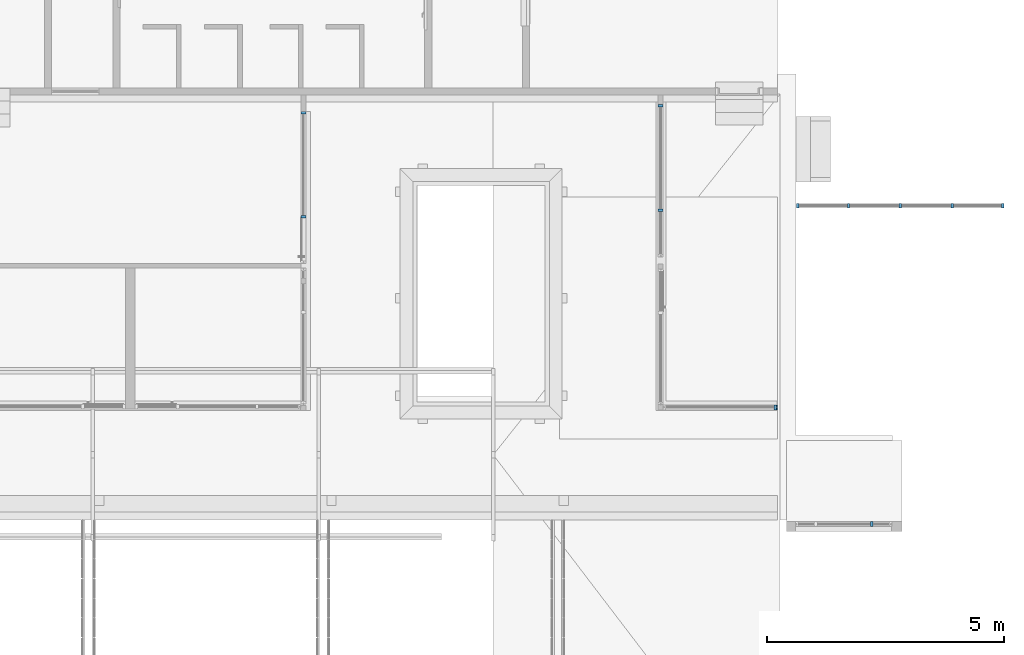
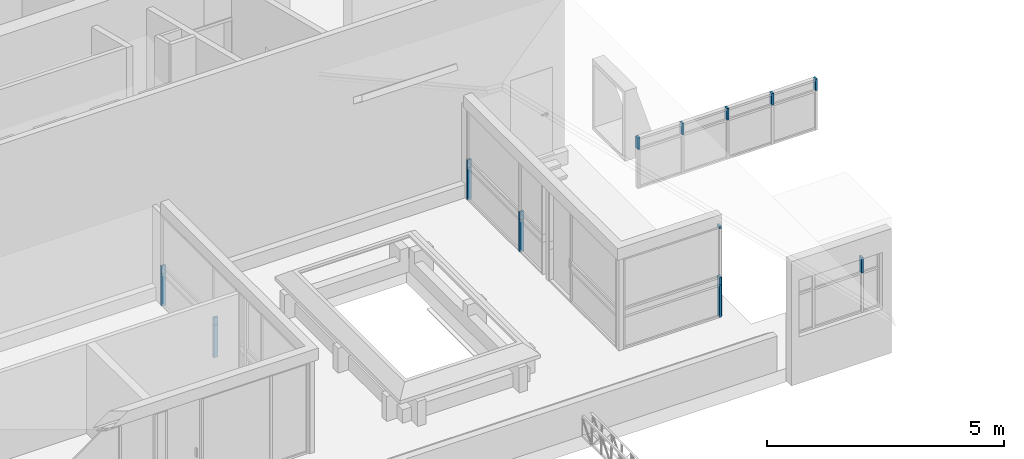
# One storey, part 100 of 153: 19 members, 5 elements without a shape of their own.
"""IFC4 building model written with IfcOpenShell, lengths in metres."""

from ifc_helpers import new_model, entity, si_unit, converted_unit, derived_unit, direction, frame, origin, place, context, subcontext, project, spatial, indexed_curve, outline, extrude, source, transform, mapped, material, type_object, type_shapes, element, aggregate, save


model = new_model("IFC4")

# Units and contexts
model_context = context("Model", 3, precision=1e-05, world=origin(), true_north=direction((6.123031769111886e-17, 1.0)))
body_context = subcontext(model_context, "Body", "Model", "MODEL_VIEW")
ifc_project = project(units=[si_unit("LENGTHUNIT", "METRE"), si_unit("AREAUNIT", "SQUARE_METRE"), si_unit("VOLUMEUNIT", "CUBIC_METRE"), converted_unit("PLANEANGLEUNIT", "DEGREE", entity("IfcRatioMeasure", 0.017453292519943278), si_unit("PLANEANGLEUNIT", "RADIAN"), dimensions=[0, 0, 0, 0, 0, 0, 0]), si_unit("MASSUNIT", "GRAM", prefix="KILO"), derived_unit("MASSDENSITYUNIT", [(si_unit("MASSUNIT", "GRAM", prefix="KILO"), 1), (si_unit("LENGTHUNIT", "METRE"), -3)]), derived_unit("MOMENTOFINERTIAUNIT", [(si_unit("LENGTHUNIT", "METRE"), 4)]), si_unit("TIMEUNIT", "SECOND"), si_unit("FREQUENCYUNIT", "HERTZ"), si_unit("THERMODYNAMICTEMPERATUREUNIT", "DEGREE_CELSIUS"), derived_unit("THERMALTRANSMITTANCEUNIT", [(si_unit("MASSUNIT", "GRAM", prefix="KILO"), 1), (si_unit("THERMODYNAMICTEMPERATUREUNIT", "KELVIN"), -1), (si_unit("TIMEUNIT", "SECOND"), -3)]), derived_unit("VOLUMETRICFLOWRATEUNIT", [(si_unit("LENGTHUNIT", "METRE"), 3), (si_unit("TIMEUNIT", "SECOND"), -1)]), derived_unit("MASSFLOWRATEUNIT", [(si_unit("MASSUNIT", "GRAM", prefix="KILO"), 1), (si_unit("TIMEUNIT", "SECOND"), -1)]), derived_unit("ROTATIONALFREQUENCYUNIT", [(si_unit("TIMEUNIT", "SECOND"), -1)]), si_unit("ELECTRICCURRENTUNIT", "AMPERE"), si_unit("ELECTRICVOLTAGEUNIT", "VOLT"), si_unit("POWERUNIT", "WATT"), si_unit("FORCEUNIT", "NEWTON", prefix="KILO"), si_unit("ILLUMINANCEUNIT", "LUX"), si_unit("LUMINOUSFLUXUNIT", "LUMEN"), si_unit("LUMINOUSINTENSITYUNIT", "CANDELA"), derived_unit("USERDEFINED", [(si_unit("MASSUNIT", "GRAM", prefix="KILO"), -1), (si_unit("LENGTHUNIT", "METRE"), -2), (si_unit("TIMEUNIT", "SECOND"), 3), (si_unit("LUMINOUSFLUXUNIT", "LUMEN"), 1)]), derived_unit("SOUNDPOWERUNIT", [(si_unit("MASSUNIT", "GRAM", prefix="KILO"), 1), (si_unit("LENGTHUNIT", "METRE"), 2), (si_unit("TIMEUNIT", "SECOND"), -3)]), derived_unit("SOUNDPRESSUREUNIT", [(si_unit("MASSUNIT", "GRAM", prefix="KILO"), 1), (si_unit("LENGTHUNIT", "METRE"), -1), (si_unit("TIMEUNIT", "SECOND"), -2)]), derived_unit("LINEARVELOCITYUNIT", [(si_unit("LENGTHUNIT", "METRE"), 1), (si_unit("TIMEUNIT", "SECOND"), -1)]), si_unit("PRESSUREUNIT", "PASCAL"), derived_unit("USERDEFINED", [(si_unit("LENGTHUNIT", "METRE"), -2), (si_unit("MASSUNIT", "GRAM", prefix="KILO"), 1), (si_unit("TIMEUNIT", "SECOND"), -2)]), derived_unit("LINEARFORCEUNIT", [(si_unit("MASSUNIT", "GRAM", prefix="KILO"), 1), (si_unit("LENGTHUNIT", "METRE"), 1), (si_unit("TIMEUNIT", "SECOND"), -2), (si_unit("LENGTHUNIT", "METRE"), -1)]), derived_unit("PLANARFORCEUNIT", [(si_unit("MASSUNIT", "GRAM", prefix="KILO"), 1), (si_unit("LENGTHUNIT", "METRE"), 1), (si_unit("TIMEUNIT", "SECOND"), -2), (si_unit("LENGTHUNIT", "METRE"), -2)])], contexts=[model_context])

# Site, building, storey
site_placement = place(None, origin())
site = spatial("IfcSite", under=ifc_project, at=site_placement, Name="Superficie", CompositionType="ELEMENT")
building_placement = place(site_placement, origin())
building = spatial("IfcBuilding", under=site, at=building_placement, CompositionType="ELEMENT")
storey_placement = place(building_placement, frame((0.0, 0.0, 3.5999999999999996)))
storey = spatial("IfcBuildingStorey", under=building, at=storey_placement, Name="Nivel 1", CompositionType="ELEMENT", Elevation=3.5999999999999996)

# Curtain wall, member
curtain_wall_type = type_object("IfcCurtainWallType", Name="Muro cortina:Muro cortina - simple", PredefinedType="NOTDEFINED")
curtain_wall_1_placement = place(storey_placement, frame((0.0, 0.0, -3.5999999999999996)))
curtain_wall_1 = element("IfcCurtainWall", 1, at=curtain_wall_1_placement, inside=storey, type_object=curtain_wall_type, Name="Muro cortina:Muro cortina - simple", ObjectType="Muro cortina:Muro cortina - simple", PredefinedType="NOTDEFINED")
ifc_material = material(Name="<Unnamed>")
member_type_1 = type_object("IfcMemberType", Name="Montante rectangular:Montante rectangular - 5 x 10 cm", PredefinedType="MULLION", material=ifc_material)
shared_shape_1 = source(origin(), body_context, "Body", "SweptSolid", [
    extrude(outline(indexed_curve([(-0.05, -0.025), (0.05, -0.025), (0.05, 0.025), (-0.05, 0.025), (-0.05, -0.025)], self_intersect=False)), frame((0.0, 0.0, -0.19999999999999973), z_axis=(0.0, 0.0, 1.0), x_axis=(0.0, -1.0, 0.0)), (0.0, 0.0, 1.0), 0.19999999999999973),
])
type_shapes(member_type_1, [shared_shape_1])
member_1_placement = place(curtain_wall_1_placement, frame((20.546799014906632, -0.9636067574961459, 4.43), z_axis=(0.0, 0.0, -1.0), x_axis=(1.0, 0.0, 0.0)))
member_1 = element("IfcMember", 2, at=member_1_placement, type_object=member_type_1, material=ifc_material, Name="Montante rectangular:Montante rectangular - 5 x 10 cm", ObjectType="Montante rectangular:Montante rectangular - 5 x 10 cm", PredefinedType="MULLION", context=body_context, shape_type="MappedRepresentation", body=[
    mapped(shared_shape_1, transform((0.0, 0.0, 0.0), scale=1.0)),
])

curtain_wall_2_placement = place(storey_placement, frame((0.0, 0.0, -3.5999999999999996)))
curtain_wall_2 = element("IfcCurtainWall", 3, at=curtain_wall_2_placement, inside=storey, type_object=curtain_wall_type, Name="Muro cortina:Muro cortina - simple", ObjectType="Muro cortina:Muro cortina - simple", PredefinedType="NOTDEFINED")
member_2_placement = place(curtain_wall_2_placement, frame((18.12679901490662, 3.1952328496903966, 4.43), z_axis=(0.0, 0.0, -1.0), x_axis=(0.0, 1.0, 0.0)))
member_2 = element("IfcMember", 4, at=member_2_placement, type_object=member_type_1, material=ifc_material, Name="Montante rectangular:Montante rectangular - 5 x 10 cm", ObjectType="Montante rectangular:Montante rectangular - 5 x 10 cm", PredefinedType="MULLION", context=body_context, shape_type="MappedRepresentation", body=[
    mapped(shared_shape_1, transform((0.0, 0.0, 0.0), scale=1.0)),
])

curtain_wall_3_placement = place(storey_placement, frame((0.0, 0.0, -3.5999999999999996)))
curtain_wall_3 = element("IfcCurtainWall", 5, at=curtain_wall_3_placement, inside=storey, type_object=curtain_wall_type, Name="Muro cortina:Muro cortina - simple", ObjectType="Muro cortina:Muro cortina - simple", PredefinedType="NOTDEFINED")
member_3_placement = place(curtain_wall_3_placement, frame((10.596799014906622, 3.057083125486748, 4.43), z_axis=(0.0, 0.0, -1.0), x_axis=(0.0, 1.0, 0.0)))
member_3 = element("IfcMember", 6, at=member_3_placement, type_object=member_type_1, material=ifc_material, Name="Montante rectangular:Montante rectangular - 5 x 10 cm", ObjectType="Montante rectangular:Montante rectangular - 5 x 10 cm", PredefinedType="MULLION", context=body_context, shape_type="MappedRepresentation", body=[
    mapped(shared_shape_1, transform((0.0, 0.0, 0.0), scale=1.0)),
])

# Member
member_type_2 = type_object("IfcMemberType", Name="Montante rectangular:Montante rectangular - 5 x 10 cm", PredefinedType="MULLION", material=ifc_material)
shared_shape_2 = source(origin(), body_context, "Body", "SweptSolid", [
    extrude(outline(indexed_curve([(-0.05, -0.025), (0.05, -0.025), (0.05, 0.025), (-0.05, 0.025), (-0.05, -0.025)], self_intersect=False)), frame((0.0, 0.0, -0.8350000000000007), z_axis=(0.0, 0.0, 1.0), x_axis=(0.0, -1.0, 0.0)), (0.0, 0.0, 1.0), 0.8350000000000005),
])
type_shapes(member_type_2, [shared_shape_2])
member_4_placement = place(curtain_wall_1_placement, frame((20.546799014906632, -0.9636067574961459, 3.5949999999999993), z_axis=(0.0, 0.0, -1.0), x_axis=(1.0, 0.0, 0.0)))
member_4 = element("IfcMember", 7, at=member_4_placement, type_object=member_type_2, material=ifc_material, Name="Montante rectangular:Montante rectangular - 5 x 10 cm", ObjectType="Montante rectangular:Montante rectangular - 5 x 10 cm", PredefinedType="MULLION", context=body_context, shape_type="MappedRepresentation", body=[
    mapped(shared_shape_2, transform((0.0, 0.0, 0.0), scale=1.0)),
])

member_5_placement = place(curtain_wall_2_placement, frame((18.12679901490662, 3.1952328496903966, 3.5949999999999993), z_axis=(0.0, 0.0, -1.0), x_axis=(0.0, 1.0, 0.0)))
member_5 = element("IfcMember", 8, at=member_5_placement, type_object=member_type_2, material=ifc_material, Name="Montante rectangular:Montante rectangular - 5 x 10 cm", ObjectType="Montante rectangular:Montante rectangular - 5 x 10 cm", PredefinedType="MULLION", context=body_context, shape_type="MappedRepresentation", body=[
    mapped(shared_shape_2, transform((0.0, 0.0, 0.0), scale=1.0)),
])

member_6_placement = place(curtain_wall_3_placement, frame((10.596799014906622, 3.057083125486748, 3.5949999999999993), z_axis=(0.0, 0.0, -1.0), x_axis=(0.0, 1.0, 0.0)))
member_6 = element("IfcMember", 9, at=member_6_placement, type_object=member_type_2, material=ifc_material, Name="Montante rectangular:Montante rectangular - 5 x 10 cm", ObjectType="Montante rectangular:Montante rectangular - 5 x 10 cm", PredefinedType="MULLION", context=body_context, shape_type="MappedRepresentation", body=[
    mapped(shared_shape_2, transform((0.0, 0.0, 0.0), scale=1.0)),
])

member_type_3 = type_object("IfcMemberType", Name="Montante rectangular:Montante rectangular - 5 x 10 cm", PredefinedType="MULLION", material=ifc_material)
shared_shape_3 = source(origin(), body_context, "Body", "SweptSolid", [
    extrude(outline(indexed_curve([(-0.05, -0.025), (0.05, -0.025), (0.05, 0.025), (-0.05, 0.025), (-0.05, -0.025)], self_intersect=False)), frame((-0.025, 0.0, -0.2), z_axis=(0.0, 0.0, 1.0), x_axis=(0.0, -1.0, 0.0)), (0.0, 0.0, 1.0), 0.2),
])
type_shapes(member_type_3, [shared_shape_3])
member_7_placement = place(curtain_wall_2_placement, frame((18.12679901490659, 5.426393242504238, 4.43), z_axis=(0.0, 0.0, -1.0), x_axis=(0.0, 1.0, 0.0)))
member_7 = element("IfcMember", 10, at=member_7_placement, type_object=member_type_3, material=ifc_material, Name="Montante rectangular:Montante rectangular - 5 x 10 cm", ObjectType="Montante rectangular:Montante rectangular - 5 x 10 cm", PredefinedType="MULLION", context=body_context, shape_type="MappedRepresentation", body=[
    mapped(shared_shape_3, transform((0.0, 0.0, 0.0), scale=1.0)),
])

member_8_placement = place(curtain_wall_3_placement, frame((10.596799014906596, 5.276393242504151, 4.43), z_axis=(0.0, 0.0, -1.0), x_axis=(0.0, 1.0, 0.0)))
member_8 = element("IfcMember", 11, at=member_8_placement, type_object=member_type_3, material=ifc_material, Name="Montante rectangular:Montante rectangular - 5 x 10 cm", ObjectType="Montante rectangular:Montante rectangular - 5 x 10 cm", PredefinedType="MULLION", context=body_context, shape_type="MappedRepresentation", body=[
    mapped(shared_shape_3, transform((0.0, 0.0, 0.0), scale=1.0)),
])

member_type_4 = type_object("IfcMemberType", Name="Montante rectangular:Montante rectangular - 5 x 10 cm", PredefinedType="MULLION", material=ifc_material)
shared_shape_4 = source(origin(), body_context, "Body", "SweptSolid", [
    extrude(outline(indexed_curve([(-0.05, -0.025), (0.05, -0.025), (0.05, 0.025), (-0.05, 0.025), (-0.05, -0.025)], self_intersect=False)), frame((-0.025, 0.0, -0.8349999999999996), z_axis=(0.0, 0.0, 1.0), x_axis=(0.0, -1.0, 0.0)), (0.0, 0.0, 1.0), 0.8349999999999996),
])
type_shapes(member_type_4, [shared_shape_4])
member_9_placement = place(curtain_wall_2_placement, frame((18.12679901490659, 5.426393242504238, 3.5949999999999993), z_axis=(0.0, 0.0, -1.0), x_axis=(0.0, 1.0, 0.0)))
member_9 = element("IfcMember", 12, at=member_9_placement, type_object=member_type_4, material=ifc_material, Name="Montante rectangular:Montante rectangular - 5 x 10 cm", ObjectType="Montante rectangular:Montante rectangular - 5 x 10 cm", PredefinedType="MULLION", context=body_context, shape_type="MappedRepresentation", body=[
    mapped(shared_shape_4, transform((0.0, 0.0, 0.0), scale=1.0)),
])

aggregate(curtain_wall_2, [member_2, member_5, member_7, member_9])

member_10_placement = place(curtain_wall_3_placement, frame((10.596799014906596, 5.276393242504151, 3.5949999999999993), z_axis=(0.0, 0.0, -1.0), x_axis=(0.0, 1.0, 0.0)))
member_10 = element("IfcMember", 13, at=member_10_placement, type_object=member_type_4, material=ifc_material, Name="Montante rectangular:Montante rectangular - 5 x 10 cm", ObjectType="Montante rectangular:Montante rectangular - 5 x 10 cm", PredefinedType="MULLION", context=body_context, shape_type="MappedRepresentation", body=[
    mapped(shared_shape_4, transform((0.0, 0.0, 0.0), scale=1.0)),
])

aggregate(curtain_wall_3, [member_3, member_6, member_8, member_10])

# Curtain wall, member
curtain_wall_4_placement = place(storey_placement, frame((0.0, 0.0, -3.5999999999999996)))
curtain_wall_4 = element("IfcCurtainWall", 14, at=curtain_wall_4_placement, inside=storey, type_object=curtain_wall_type, Name="Muro cortina:Muro cortina - simple", ObjectType="Muro cortina:Muro cortina - simple", PredefinedType="NOTDEFINED")
member_type_5 = type_object("IfcMemberType", Name="Montante rectangular:Montante rectangular - 5 x 10 cm", PredefinedType="MULLION", material=ifc_material)
shared_shape_5 = source(origin(), body_context, "Body", "SweptSolid", [
    extrude(outline(indexed_curve([(-0.05, -0.025), (0.05, -0.025), (0.05, 0.025), (-0.05, 0.025), (-0.05, -0.025)], self_intersect=False)), frame((0.0, 0.0, -0.4), z_axis=(0.0, 0.0, 1.0), x_axis=(0.0, -1.0, 0.0)), (0.0, 0.0, 1.0), 0.4),
])
type_shapes(member_type_5, [shared_shape_5])
member_11_placement = place(curtain_wall_4_placement, frame((22.581001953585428, -3.424170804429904, 5.516385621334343), z_axis=(0.0, 0.0, -1.0), x_axis=(-1.0, 0.0, 0.0)))
member_11 = element("IfcMember", 15, at=member_11_placement, type_object=member_type_5, material=ifc_material, Name="Montante rectangular:Montante rectangular - 5 x 10 cm", ObjectType="Montante rectangular:Montante rectangular - 5 x 10 cm", PredefinedType="MULLION", context=body_context, shape_type="MappedRepresentation", body=[
    mapped(shared_shape_5, transform((0.0, 0.0, 0.0), scale=1.0)),
])
aggregate(curtain_wall_4, [member_11])

# Member
member_type_6 = type_object("IfcMemberType", Name="Montante rectangular:Montante rectangular - 5 x 10 cm", PredefinedType="MULLION", material=ifc_material)
shared_shape_6 = source(origin(), body_context, "Body", "SweptSolid", [
    extrude(outline(indexed_curve([(-0.05, -0.025), (0.05, -0.025), (0.05, 0.025), (-0.05, 0.025), (-0.05, -0.025)], self_intersect=False)), frame((-0.025, 0.0, -0.2), z_axis=(0.0, 0.0, 1.0), x_axis=(0.0, -1.0, 0.0)), (0.0, 0.0, 1.0), 0.2),
])
type_shapes(member_type_6, [shared_shape_6])
member_12_placement = place(curtain_wall_1_placement, frame((20.58679901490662, -0.963606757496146, 4.43), z_axis=(0.0, 0.0, -1.0), x_axis=(1.0, 0.0, 0.0)))
member_12 = element("IfcMember", 16, at=member_12_placement, type_object=member_type_6, material=ifc_material, Name="Montante rectangular:Montante rectangular - 5 x 10 cm", ObjectType="Montante rectangular:Montante rectangular - 5 x 10 cm", PredefinedType="MULLION", context=body_context, shape_type="MappedRepresentation", body=[
    mapped(shared_shape_6, transform((0.0, 0.0, 0.0), scale=1.0)),
])

member_type_7 = type_object("IfcMemberType", Name="Montante rectangular:Montante rectangular - 5 x 10 cm", PredefinedType="MULLION", material=ifc_material)
shared_shape_7 = source(origin(), body_context, "Body", "SweptSolid", [
    extrude(outline(indexed_curve([(-0.05, -0.025), (0.05, -0.025), (0.05, 0.025), (-0.05, 0.025), (-0.05, -0.025)], self_intersect=False)), frame((-0.025, 0.0, -0.8100000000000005), z_axis=(0.0, 0.0, 1.0), x_axis=(0.0, -1.0, 0.0)), (0.0, 0.0, 1.0), 0.8100000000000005),
])
type_shapes(member_type_7, [shared_shape_7])
member_13_placement = place(curtain_wall_1_placement, frame((20.58679901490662, -0.963606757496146, 3.619999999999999), z_axis=(0.0, 0.0, -1.0), x_axis=(1.0, 0.0, 0.0)))
member_13 = element("IfcMember", 17, at=member_13_placement, type_object=member_type_7, material=ifc_material, Name="Montante rectangular:Montante rectangular - 5 x 10 cm", ObjectType="Montante rectangular:Montante rectangular - 5 x 10 cm", PredefinedType="MULLION", context=body_context, shape_type="MappedRepresentation", body=[
    mapped(shared_shape_7, transform((0.0, 0.0, 0.0), scale=1.0)),
])

member_type_8 = type_object("IfcMemberType", Name="Montante rectangular:Montante rectangular - 5 x 10 cm", PredefinedType="MULLION", material=ifc_material)
shared_shape_8 = source(origin(), body_context, "Body", "SweptSolid", [
    extrude(outline(indexed_curve([(-0.05, -0.025), (0.05, -0.025), (0.05, 0.025), (-0.05, 0.025), (-0.05, -0.025)], self_intersect=False)), frame((0.0, 0.0, -0.07000000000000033), z_axis=(0.0, 0.0, 1.0), x_axis=(0.0, -1.0, 0.0)), (0.0, 0.0, 1.0), 0.07000000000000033),
])
type_shapes(member_type_8, [shared_shape_8])
member_14_placement = place(curtain_wall_1_placement, frame((20.546799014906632, -0.9636067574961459, 5.879999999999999), z_axis=(0.0, 0.0, -1.0), x_axis=(1.0, 0.0, 0.0)))
member_14 = element("IfcMember", 18, at=member_14_placement, type_object=member_type_8, material=ifc_material, Name="Montante rectangular:Montante rectangular - 5 x 10 cm", ObjectType="Montante rectangular:Montante rectangular - 5 x 10 cm", PredefinedType="MULLION", context=body_context, shape_type="MappedRepresentation", body=[
    mapped(shared_shape_8, transform((0.0, 0.0, 0.0), scale=1.0)),
])

aggregate(curtain_wall_1, [member_12, member_13, member_1, member_4, member_14])

# Curtain wall, members
curtain_wall_5_placement = place(storey_placement, frame((0.0, 0.0, -3.5999999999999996)))
curtain_wall_5 = element("IfcCurtainWall", 19, at=curtain_wall_5_placement, inside=storey, type_object=curtain_wall_type, Name="Muro cortina:Muro cortina - simple", ObjectType="Muro cortina:Muro cortina - simple", PredefinedType="NOTDEFINED")
member_type_9 = type_object("IfcMemberType", Name="Montante rectangular:Montante rectangular - 5 x 10 cm", PredefinedType="MULLION", material=ifc_material)
shared_shape_9 = source(origin(), body_context, "Body", "SweptSolid", [
    extrude(outline(indexed_curve([(-0.05, -0.025), (0.05, -0.025), (0.05, 0.025), (-0.05, 0.025), (-0.05, -0.025)], self_intersect=False)), frame((-0.025, 0.0, -0.30000000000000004), z_axis=(0.0, 0.0, 1.0), x_axis=(0.0, -1.0, 0.0)), (0.0, 0.0, 1.0), 0.30000000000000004),
])
type_shapes(member_type_9, [shared_shape_9])
member_15_placement = place(curtain_wall_5_placement, frame((20.995449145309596, 3.2908292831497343, 5.470714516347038), z_axis=(0.0, 0.0, 1.0), x_axis=(-1.0, 0.0, 0.0)))
member_15 = element("IfcMember", 20, at=member_15_placement, type_object=member_type_9, material=ifc_material, Name="Montante rectangular:Montante rectangular - 5 x 10 cm", ObjectType="Montante rectangular:Montante rectangular - 5 x 10 cm", PredefinedType="MULLION", context=body_context, shape_type="MappedRepresentation", body=[
    mapped(shared_shape_9, transform((0.0, 0.0, 0.0), scale=1.0)),
])
member_type_10 = type_object("IfcMemberType", Name="Montante rectangular:Montante rectangular - 5 x 10 cm", PredefinedType="MULLION", material=ifc_material)
shared_shape_10 = source(origin(), body_context, "Body", "SweptSolid", [
    extrude(outline(indexed_curve([(-0.05, -0.025), (0.05, -0.025), (0.05, 0.025), (-0.05, 0.025), (-0.05, -0.025)], self_intersect=False)), frame((-0.025, 0.0, -0.30000000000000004), z_axis=(0.0, 0.0, 1.0), x_axis=(0.0, -1.0, 0.0)), (0.0, 0.0, 1.0), 0.30000000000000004),
])
type_shapes(member_type_10, [shared_shape_10])
member_16_placement = place(curtain_wall_5_placement, frame((25.368336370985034, 3.29082928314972, 5.170714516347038), z_axis=(0.0, 0.0, -1.0), x_axis=(1.0, 0.0, 0.0)))
member_16 = element("IfcMember", 21, at=member_16_placement, type_object=member_type_10, material=ifc_material, Name="Montante rectangular:Montante rectangular - 5 x 10 cm", ObjectType="Montante rectangular:Montante rectangular - 5 x 10 cm", PredefinedType="MULLION", context=body_context, shape_type="MappedRepresentation", body=[
    mapped(shared_shape_10, transform((0.0, 0.0, 0.0), scale=1.0)),
])
member_type_11 = type_object("IfcMemberType", Name="Montante rectangular:Montante rectangular - 5 x 10 cm", PredefinedType="MULLION", material=ifc_material)
shared_shape_11 = source(origin(), body_context, "Body", "SweptSolid", [
    extrude(outline(indexed_curve([(-0.05, -0.025), (0.05, -0.025), (0.05, 0.025), (-0.05, 0.025), (-0.05, -0.025)], self_intersect=False)), frame((0.0, 0.0, -0.30000000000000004), z_axis=(0.0, 0.0, 1.0), x_axis=(0.0, -1.0, 0.0)), (0.0, 0.0, 1.0), 0.30000000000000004),
])
type_shapes(member_type_11, [shared_shape_11])
member_17_placement = place(curtain_wall_5_placement, frame((24.275114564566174, 3.290829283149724, 5.170714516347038), z_axis=(0.0, 0.0, -1.0), x_axis=(1.0, 0.0, 0.0)))
member_17 = element("IfcMember", 22, at=member_17_placement, type_object=member_type_11, material=ifc_material, Name="Montante rectangular:Montante rectangular - 5 x 10 cm", ObjectType="Montante rectangular:Montante rectangular - 5 x 10 cm", PredefinedType="MULLION", context=body_context, shape_type="MappedRepresentation", body=[
    mapped(shared_shape_11, transform((0.0, 0.0, 0.0), scale=1.0)),
])
member_18_placement = place(curtain_wall_5_placement, frame((23.18189275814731, 3.2908292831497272, 5.170714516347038), z_axis=(0.0, 0.0, -1.0), x_axis=(1.0, 0.0, 0.0)))
member_18 = element("IfcMember", 23, at=member_18_placement, type_object=member_type_11, material=ifc_material, Name="Montante rectangular:Montante rectangular - 5 x 10 cm", ObjectType="Montante rectangular:Montante rectangular - 5 x 10 cm", PredefinedType="MULLION", context=body_context, shape_type="MappedRepresentation", body=[
    mapped(shared_shape_11, transform((0.0, 0.0, 0.0), scale=1.0)),
])
member_19_placement = place(curtain_wall_5_placement, frame((22.088670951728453, 3.290829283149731, 5.170714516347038), z_axis=(0.0, 0.0, -1.0), x_axis=(1.0, 0.0, 0.0)))
member_19 = element("IfcMember", 24, at=member_19_placement, type_object=member_type_11, material=ifc_material, Name="Montante rectangular:Montante rectangular - 5 x 10 cm", ObjectType="Montante rectangular:Montante rectangular - 5 x 10 cm", PredefinedType="MULLION", context=body_context, shape_type="MappedRepresentation", body=[
    mapped(shared_shape_11, transform((0.0, 0.0, 0.0), scale=1.0)),
])
aggregate(curtain_wall_5, [member_15, member_16, member_17, member_18, member_19])

save(model, "model.ifc")
